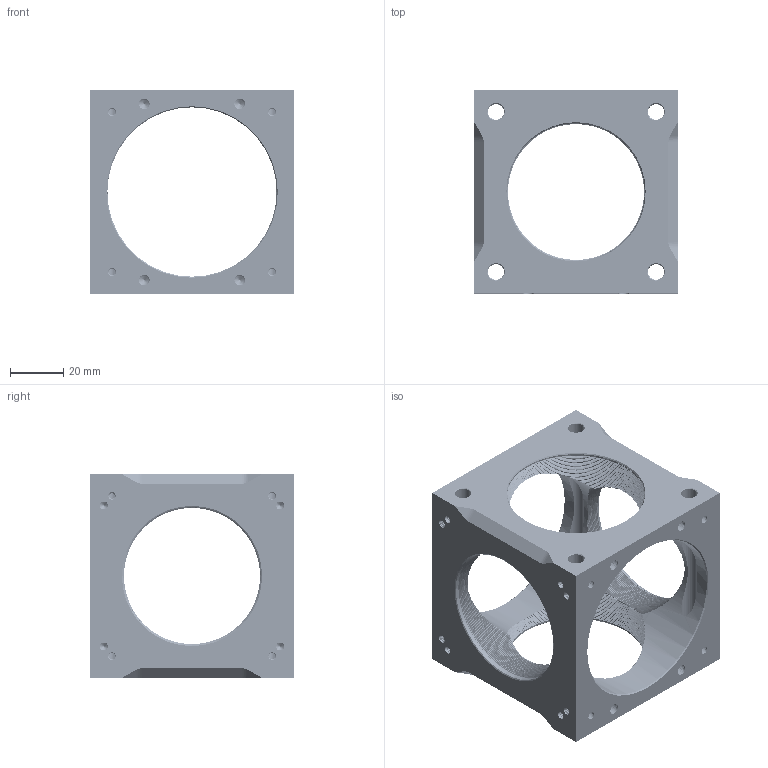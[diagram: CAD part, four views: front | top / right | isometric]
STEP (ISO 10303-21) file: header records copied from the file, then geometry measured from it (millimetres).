
FILE_DESCRIPTION((''),'2;1');
FILE_NAME('CSL60-M2','2021-10-16T',('Administrator'),(''),'CREO PARAMETRIC BY PTC INC, 2015290','CREO PARAMETRIC BY PTC INC, 2015290','');
FILE_SCHEMA(('CONFIG_CONTROL_DESIGN'));
Products named in the file (1): CSL60-M2
Bounding box: 76.2 x 76.2 x 76.2 mm (x, y, z)
Volume: 115380.6 mm3; surface area: 43967.5 mm2
Topology: 1 solids, 1 shells, 1973 faces, 5626 edges, 3588 vertices
Faces by surface type: bspline 1009, cylinder 867, cone 62, plane 35
Entity records: 245969 total; most frequent: CARTESIAN_POINT 206002, ORIENTED_EDGE 11188, EDGE_CURVE 5594, B_SPLINE_CURVE_WITH_KNOTS 4160, VERTEX_POINT 3588, DIRECTION 3517, EDGE_LOOP 2048, FACE_OUTER_BOUND 1973
